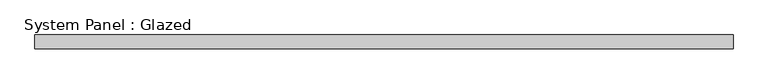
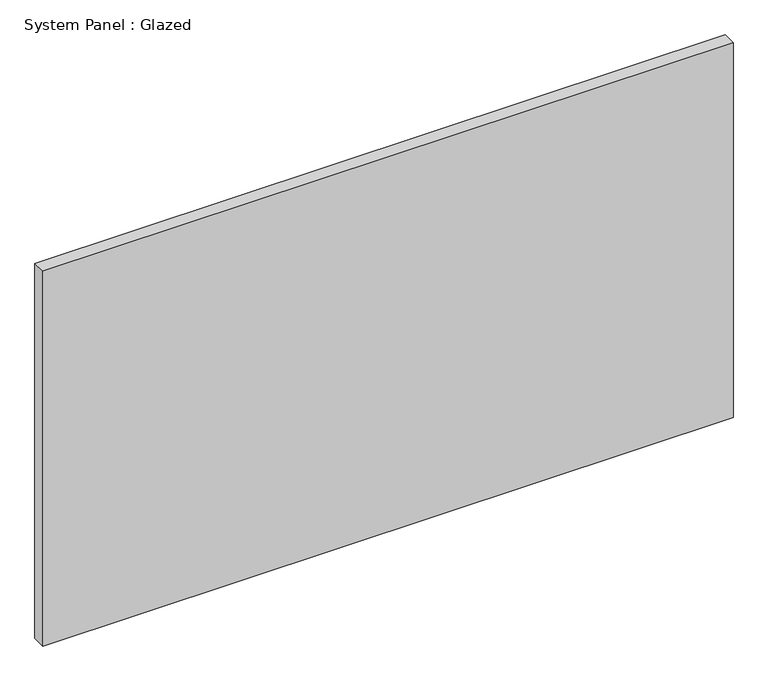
"""IFC4 building model written with IfcOpenShell, lengths in millimetres: plate geometry, System Panel : Glazed."""

from ifc_helpers import new_model, si_unit, origin, origin_with_axes, place, context, project, spatial, polyline, outline, extrude, source, transform, mapped, element, save


def system_panel_glazed_962a3b9d(model_context):
    return source(origin(), model_context, "Body", "SweptSolid", [
        extrude(outline(polyline([(630.8333334, -49.5), (-630.8333334, -49.5), (-630.8333334, -24.5), (630.8333334, -24.5), (630.8333334, -49.5)])), origin_with_axes(), (0.0, 0.0, 1.0), 725.0),
    ])


if __name__ == "__main__":
    model = new_model("IFC4")
    model_context = context("Model", 3, world=origin())
    ifc_project = project(units=[si_unit("LENGTHUNIT", "METRE", prefix="MILLI")], contexts=[model_context])
    site = spatial("IfcSite", under=ifc_project)
    building = spatial("IfcBuilding", under=site)
    placement = place(None, origin())
    system_panel_glazed_shape = system_panel_glazed_962a3b9d(model_context)
    element("IfcPlate", 1, ObjectType="System Panel : Glazed", at=placement, inside=building, context=model_context, shape_type="MappedRepresentation", body=[
        mapped(system_panel_glazed_shape, transform((0.0, 0.0, 0.0), x_axis=(1.0, 0.0, 0.0), y_axis=(0.0, 1.0, 0.0), z_axis=(0.0, 0.0, 1.0))),
    ])
    save(model, "model.ifc")
